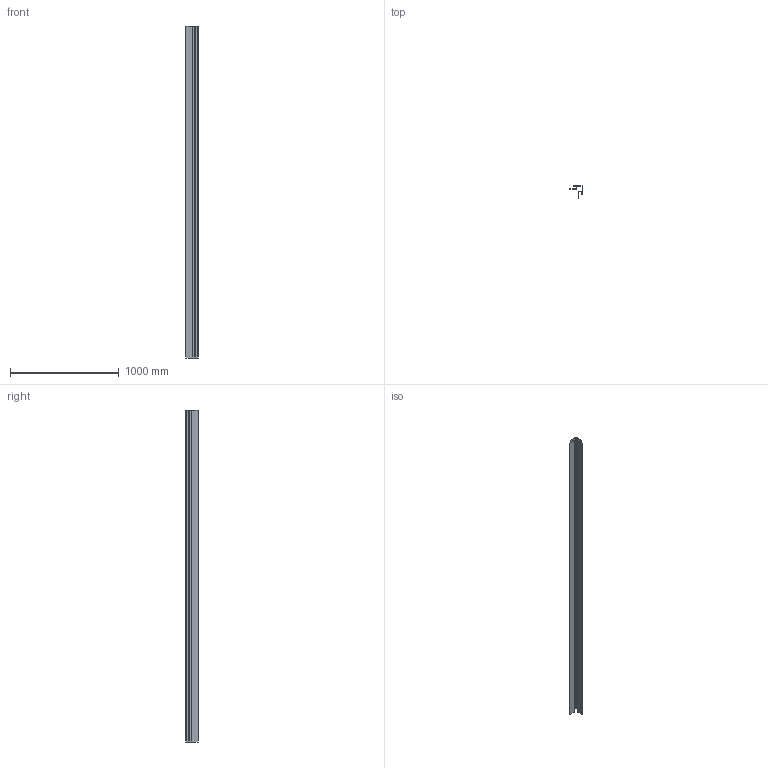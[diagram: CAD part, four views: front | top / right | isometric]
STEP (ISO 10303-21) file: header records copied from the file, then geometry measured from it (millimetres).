
FILE_DESCRIPTION (( 'STEP AP203' ), '1' );
FILE_NAME ('M21G.STEP', '2018-06-15T16:39:46', ( 'Michael Moliner' ), ( '' ), 'SwSTEP 2.0', 'SolidWorks 2018', '' );
FILE_SCHEMA (( 'CONFIG_CONTROL_DESIGN' ));
Length unit declared in the file: inch
Products named in the file (2): M21G
Bounding box: 112.71 x 112.71 x 3048 mm (x, y, z)
Volume: 586439.9 mm3; surface area: 2312300.2 mm2
Topology: 1 solids, 1 shells, 36 faces, 102 edges, 68 vertices
Faces by surface type: plane 20, cylinder 16
Entity records: 1335 total; most frequent: DIRECTION 210, CARTESIAN_POINT 208, ORIENTED_EDGE 204, EDGE_CURVE 102, VECTOR 70, AXIS2_PLACEMENT_3D 70, LINE 70, VERTEX_POINT 68
